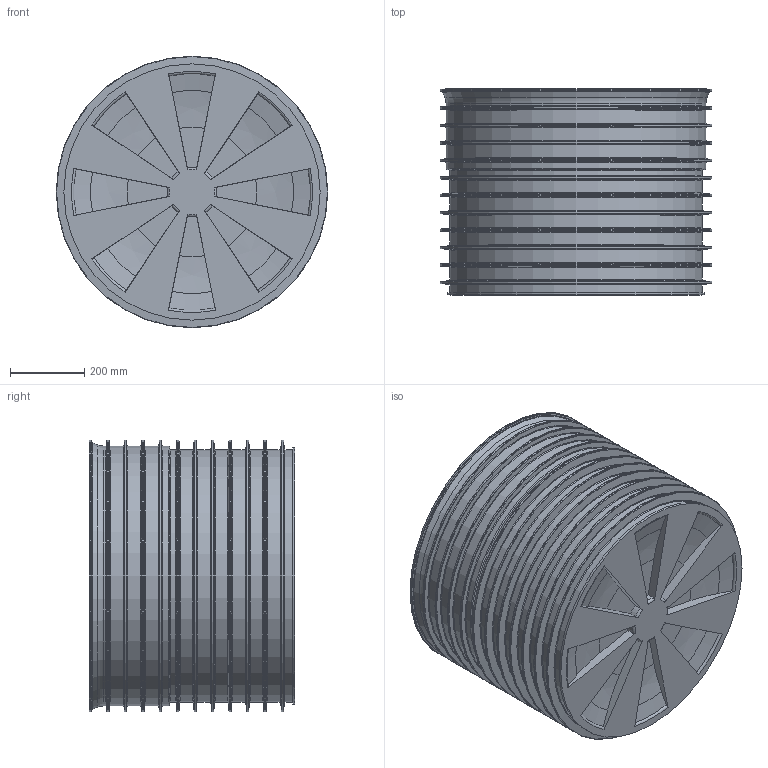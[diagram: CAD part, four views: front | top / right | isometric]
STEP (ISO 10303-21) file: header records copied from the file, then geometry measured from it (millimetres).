
FILE_DESCRIPTION(/* description */ (''),/* implementation_level */ '2;1');
FILE_NAME(/* name */ '662000z.stp',/* time_stamp */ '2026-08-20T12:18:45+02:00',/* author */ ('corinna'),/* organization */ (''),/* preprocessor_version */ 'ST-DEVELOPER v20',/* originating_system */ 'Autodesk Inventor 2024',/* authorisation */ '');
FILE_SCHEMA (('AUTOMOTIVE_DESIGN { 1 0 10303 214 3 1 1 }'));
Length unit declared in the file: millimetre
Products named in the file (3): 662000z; 662000 Leerboden DN600 Grundkörper; 662000 Schacht DN600 Boden
Assembly tree (2 placements, depth 2):
  662000z
    662000 Leerboden DN600 Grundkörper
    662000 Schacht DN600 Boden
Bounding box: 731 x 554.5 x 731 mm (x, y, z)
Volume: 21368116.7 mm3; surface area: 4978528 mm2
Topology: 2 solids, 2 shells, 206 faces, 560 edges, 373 vertices
Faces by surface type: torus 76, cylinder 50, cone 36, plane 35, bspline 9
Full cylindrical faces by diameter (mm): 120 x1, 135 x1, 150 x1, 640 x1, 650 x1, 666 x2, 681 x8, 685 x1, 690 x1, 700 x5, 731 x12
Entity records: 6935 total; most frequent: DIRECTION 1382, CARTESIAN_POINT 1234, ORIENTED_EDGE 1120, AXIS2_PLACEMENT_3D 620, EDGE_CURVE 560, CIRCLE 418, VERTEX_POINT 373, EDGE_LOOP 221
